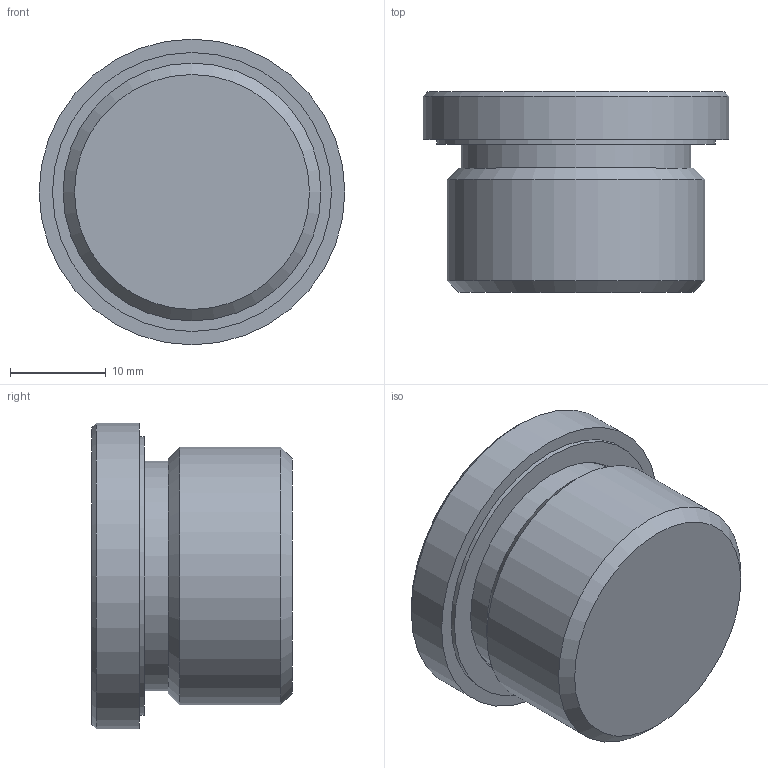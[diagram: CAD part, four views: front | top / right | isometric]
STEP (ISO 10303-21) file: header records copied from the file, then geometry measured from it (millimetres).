
FILE_DESCRIPTION( ( 'STEP AP203' ), '1' );
FILE_NAME( 'C:/Temp/Ganter_Step_05_03_2020/data/3_5/gn749/gn749_a/Threaded plug GN 749-M27x2-A.stp', '2020-03-12T13:41:35', ( 'License CC BY-ND 4.0' ), ( 'CADENAS' ), ' ', 'PARTsolutions', ' ' );
FILE_SCHEMA( ( 'CONFIG_CONTROL_DESIGN' ) );
Length unit declared in the file: millimetre
Products named in the file (1): _Threaded plug GN 749-M27x2-A
Bounding box: 32 x 21 x 32 mm (x, y, z)
Volume: 11669.3 mm3; surface area: 3985.9 mm2
Topology: 1 solids, 1 shells, 21 faces, 41 edges, 27 vertices
Faces by surface type: plane 13, cylinder 5, cone 3
Full cylindrical faces by diameter (mm): 24 x1, 24.4 x1, 27 x1, 29.2 x1, 32 x1
Entity records: 526 total; most frequent: DIRECTION 88, CARTESIAN_POINT 78, ORIENTED_EDGE 62, AXIS2_PLACEMENT_3D 35, EDGE_LOOP 34, EDGE_CURVE 31, FACE_OUTER_BOUND 26, VERTEX_POINT 25
